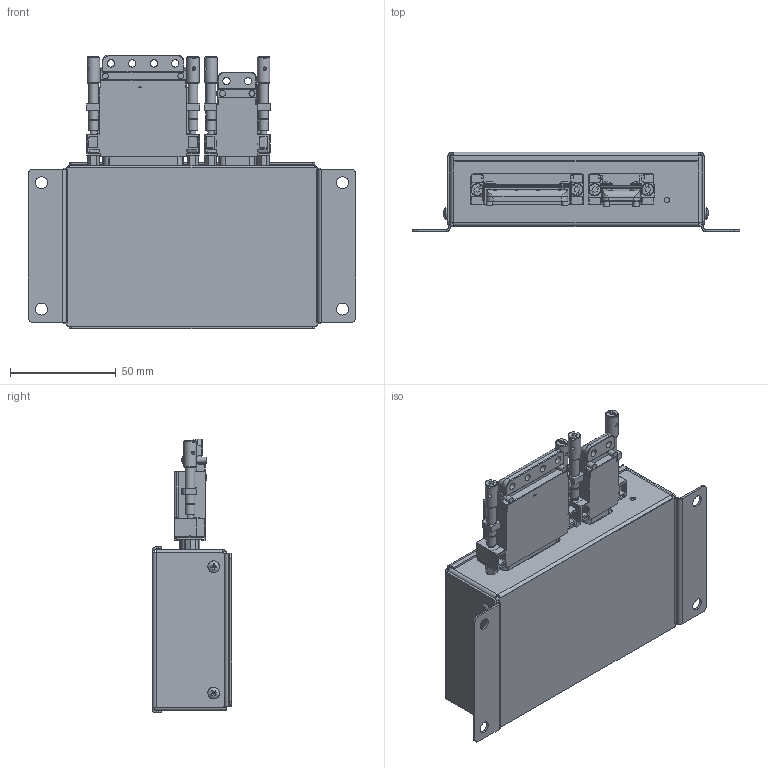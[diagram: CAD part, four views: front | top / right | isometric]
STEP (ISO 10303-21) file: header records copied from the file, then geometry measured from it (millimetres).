
FILE_DESCRIPTION (( 'STEP AP203' ), '1' );
FILE_NAME ('GAD29_rev1.STEP', '2013-04-03T18:39:27', ( 'Garmin' ), ( 'Garmin' ), 'SwSTEP 2.0', 'SolidWorks 2012', '' );
FILE_SCHEMA (( 'CONFIG_CONTROL_DESIGN' ));
Products named in the file (1): GAD29_rev1
Bounding box: 154.94 x 37.69 x 129.41 mm (x, y, z)
Volume: 366013.9 mm3; surface area: 60940.7 mm2
Topology: 3 solids, 19 shells, 1909 faces, 4887 edges, 3078 vertices
Faces by surface type: plane 1075, cylinder 575, bspline 154, cone 57, torus 24, sphere 24
Full cylindrical faces by diameter (mm): 0.991 x9, 1.143 x25, 1.524 x9, 1.587 x4, 2.083 x25, 2.261 x12, 2.54 x1, 2.845 x22, 3 x4, 3.05 x4, 3.264 x10, 3.302 x8, 3.429 x4, 3.454 x6, 4 x4, 4.572 x8, 4.801 x4, 5.588 x8, 5.613 x4, 5.944 x4
Entity records: 66068 total; most frequent: CARTESIAN_POINT 23079, ORIENTED_EDGE 8992, DIRECTION 8184, EDGE_CURVE 4496, VERTEX_POINT 2954, AXIS2_PLACEMENT_3D 2750, VECTOR 2684, LINE 2684
